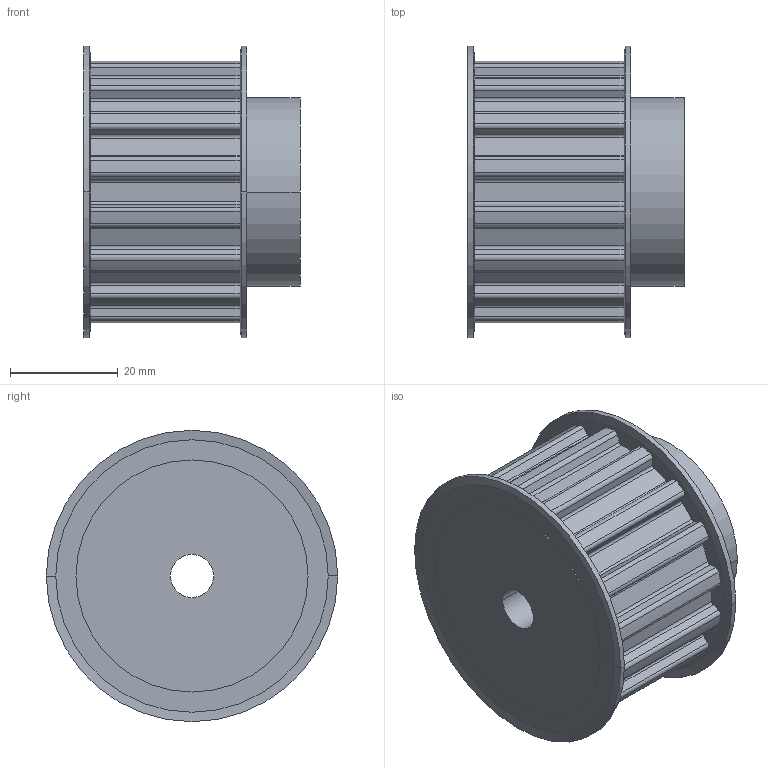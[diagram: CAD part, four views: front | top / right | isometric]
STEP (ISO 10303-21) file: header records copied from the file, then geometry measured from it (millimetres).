
FILE_DESCRIPTION( ( '' ), '1' );
FILE_NAME( 'C:/Users/Stangenbergd/Documents/CAD_Step/1/16431600.stp', '2021-10-19T08:55:05', ( '' ), ( '' ), ' ', ' ', ' ' );
FILE_SCHEMA( ( 'CONFIG_CONTROL_DESIGN' ) );
Length unit declared in the file: millimetre
Products named in the file (1): 1
Bounding box: 40.1 x 54 x 54 mm (x, y, z)
Volume: 59134.2 mm3; surface area: 13683.9 mm2
Topology: 1 solids, 1 shells, 155 faces, 436 edges, 288 vertices
Faces by surface type: cylinder 92, plane 55, cone 8
Entity records: 5126 total; most frequent: DIRECTION 940, CARTESIAN_POINT 880, ORIENTED_EDGE 872, EDGE_CURVE 436, AXIS2_PLACEMENT_3D 348, VERTEX_POINT 288, LINE 244, VECTOR 244
